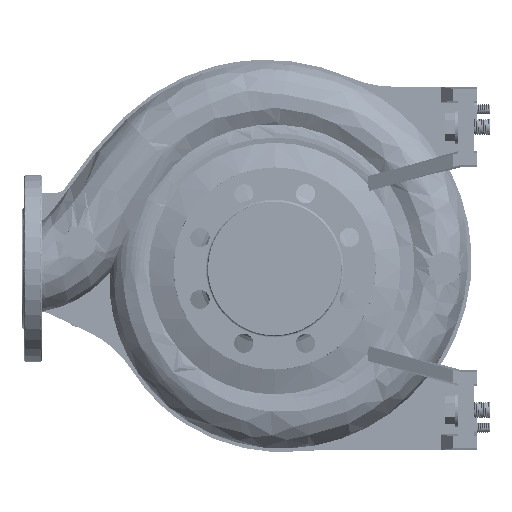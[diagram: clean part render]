
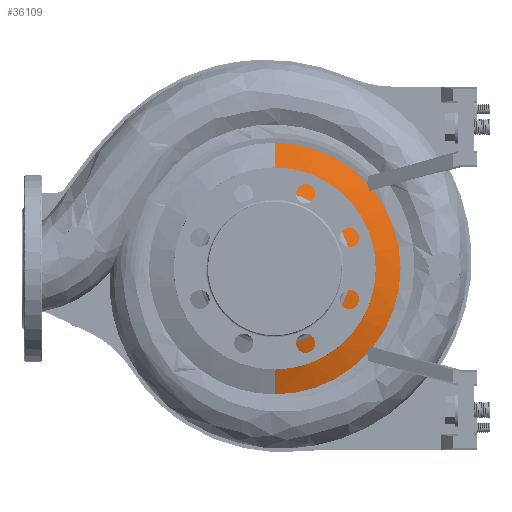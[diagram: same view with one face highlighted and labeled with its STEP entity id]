
A CAD part, left-side view. The second image highlights one B-rep face of the part: STEP entity #36109.
In plain terms, the highlighted conical face has half-angle 70 degrees and reference radius 75.813 mm.
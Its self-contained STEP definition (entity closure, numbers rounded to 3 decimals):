
#1136 = ORIENTED_EDGE ( 'NONE', *, *, #2793, .F. ) ;
#1147 = AXIS2_PLACEMENT_3D ( 'NONE', #101738, #159464, #145041 ) ;
#2793 = EDGE_CURVE ( 'NONE', #102233, #60313, #119506, .T. ) ;
#3297 = AXIS2_PLACEMENT_3D ( 'NONE', #76582, #100985, #130766 ) ;
#4198 = AXIS2_PLACEMENT_3D ( 'NONE', #114776, #19951, #87677 ) ;
#4266 = ORIENTED_EDGE ( 'NONE', *, *, #170350, .F. ) ;
#6507 = VERTEX_POINT ( 'NONE', #75205 ) ;
#7668 = VERTEX_POINT ( 'NONE', #13047 ) ;
#8170 = ORIENTED_EDGE ( 'NONE', *, *, #35137, .F. ) ;
#9872 = CARTESIAN_POINT ( 'NONE',  ( -32.018, -92.893, -79.411 ) ) ;
#12414 = DIRECTION ( 'NONE',  ( 0., 0., -1. ) ) ;
#13047 = CARTESIAN_POINT ( 'NONE',  ( -32.414, -93.579, -76.86 ) ) ;
#15435 = CARTESIAN_POINT ( 'NONE',  ( -32.009, -94.767, -77.168 ) ) ;
#19951 = DIRECTION ( 'NONE',  ( 1., 0., 0. ) ) ;
#24870 = CIRCLE ( 'NONE', #154616, 124.492 ) ;
#26311 = DIRECTION ( 'NONE',  ( -1., 0., 0. ) ) ;
#27428 = VECTOR ( 'NONE', #94171, 1000. ) ;
#28474 = ORIENTED_EDGE ( 'NONE', *, *, #159296, .F. ) ;
#28555 = CARTESIAN_POINT ( 'NONE',  ( -31.179, -91.439, 84.482 ) ) ;
#35137 = EDGE_CURVE ( 'NONE', #65257, #102233, #73276, .T. ) ;
#36109 = ADVANCED_FACE ( 'NONE', ( #145438 ), #148406, .T. ) ;
#38682 = CIRCLE ( 'NONE', #1147, 124.492 ) ;
#40962 = CARTESIAN_POINT ( 'NONE',  ( -32.414, -93.579, 76.86 ) ) ;
#41442 = CARTESIAN_POINT ( 'NONE',  ( -31.606, -92.179, 81.951 ) ) ;
#42718 = B_SPLINE_CURVE_WITH_KNOTS ( 'NONE', 3,
 ( #163305, #9872, #64948, #79370 ),
 .UNSPECIFIED., .F., .F.,
 ( 4, 4 ),
 ( 0., 0.008 ),
 .UNSPECIFIED. ) ;
#44260 = ORIENTED_EDGE ( 'NONE', *, *, #93498, .F. ) ;
#45179 = EDGE_CURVE ( 'NONE', #145474, #121984, #129296, .T. ) ;
#45580 = DIRECTION ( 'NONE',  ( 0.342, 0., -0.94 ) ) ;
#52205 = EDGE_LOOP ( 'NONE', ( #1136, #8170, #172983, #128111, #105216, #44260, #28474, #82037, #4266, #106501 ) ) ;
#54531 = CARTESIAN_POINT ( 'NONE',  ( -32.009, -94.767, 77.168 ) ) ;
#57670 = B_SPLINE_CURVE_WITH_KNOTS ( 'NONE', 3,
 ( #150875, #139122, #15435, #111156 ),
 .UNSPECIFIED., .F., .F.,
 ( 4, 4 ),
 ( 0., 1. ),
 .UNSPECIFIED. ) ;
#58960 = CARTESIAN_POINT ( 'NONE',  ( -31.179, -97.191, 77.796 ) ) ;
#60313 = VERTEX_POINT ( 'NONE', #101507 ) ;
#61466 = EDGE_CURVE ( 'NONE', #65257, #6507, #113298, .T. ) ;
#63691 = EDGE_CURVE ( 'NONE', #81980, #6507, #138762, .T. ) ;
#64948 = CARTESIAN_POINT ( 'NONE',  ( -31.606, -92.179, -81.951 ) ) ;
#65257 = VERTEX_POINT ( 'NONE', #144677 ) ;
#66813 = VERTEX_POINT ( 'NONE', #28555 ) ;
#67491 = CARTESIAN_POINT ( 'NONE',  ( -31.179, 0., 0. ) ) ;
#73276 = CIRCLE ( 'NONE', #151481, 75.813 ) ;
#73331 = EDGE_CURVE ( 'NONE', #7668, #81980, #42718, .T. ) ;
#75205 = CARTESIAN_POINT ( 'NONE',  ( -31.179, 0., -124.492 ) ) ;
#76582 = CARTESIAN_POINT ( 'NONE',  ( -31.179, 0., 0. ) ) ;
#79370 = CARTESIAN_POINT ( 'NONE',  ( -31.179, -91.439, -84.482 ) ) ;
#81980 = VERTEX_POINT ( 'NONE', #151962 ) ;
#82037 = ORIENTED_EDGE ( 'NONE', *, *, #45179, .F. ) ;
#86050 = CARTESIAN_POINT ( 'NONE',  ( -31.179, -97.191, 77.796 ) ) ;
#86322 = CARTESIAN_POINT ( 'NONE',  ( -31.179, -91.439, 84.482 ) ) ;
#87677 = DIRECTION ( 'NONE',  ( 0., 0., -1. ) ) ;
#90704 = VERTEX_POINT ( 'NONE', #177629 ) ;
#93498 = EDGE_CURVE ( 'NONE', #90704, #7668, #57670, .T. ) ;
#94171 = DIRECTION ( 'NONE',  ( 0.342, 0., 0.94 ) ) ;
#100985 = DIRECTION ( 'NONE',  ( 1., 0., 0. ) ) ;
#101507 = CARTESIAN_POINT ( 'NONE',  ( -31.179, 0., 124.492 ) ) ;
#101738 = CARTESIAN_POINT ( 'NONE',  ( -31.179, 0., 0. ) ) ;
#102233 = VERTEX_POINT ( 'NONE', #158434 ) ;
#105216 = ORIENTED_EDGE ( 'NONE', *, *, #73331, .F. ) ;
#106501 = ORIENTED_EDGE ( 'NONE', *, *, #153650, .F. ) ;
#110056 = CARTESIAN_POINT ( 'NONE',  ( -32.414, -93.579, 76.86 ) ) ;
#111156 = CARTESIAN_POINT ( 'NONE',  ( -32.414, -93.579, -76.86 ) ) ;
#113298 = LINE ( 'NONE', #169276, #167116 ) ;
#114776 = CARTESIAN_POINT ( 'NONE',  ( -48.896, 0., 0. ) ) ;
#119506 = LINE ( 'NONE', #146591, #27428 ) ;
#120762 = B_SPLINE_CURVE_WITH_KNOTS ( 'NONE', 3,
 ( #86322, #41442, #123611, #110056 ),
 .UNSPECIFIED., .F., .F.,
 ( 4, 4 ),
 ( 0., 0.008 ),
 .UNSPECIFIED. ) ;
#121984 = VERTEX_POINT ( 'NONE', #58960 ) ;
#123611 = CARTESIAN_POINT ( 'NONE',  ( -32.018, -92.893, 79.411 ) ) ;
#125812 = CARTESIAN_POINT ( 'NONE',  ( -31.597, -95.971, 77.479 ) ) ;
#128111 = ORIENTED_EDGE ( 'NONE', *, *, #63691, .F. ) ;
#129296 = B_SPLINE_CURVE_WITH_KNOTS ( 'NONE', 3,
 ( #40962, #54531, #125812, #86050 ),
 .UNSPECIFIED., .F., .F.,
 ( 4, 4 ),
 ( 0., 1. ),
 .UNSPECIFIED. ) ;
#130766 = DIRECTION ( 'NONE',  ( 0., 0., -1. ) ) ;
#138762 = CIRCLE ( 'NONE', #3297, 124.492 ) ;
#139122 = CARTESIAN_POINT ( 'NONE',  ( -31.597, -95.971, -77.479 ) ) ;
#144677 = CARTESIAN_POINT ( 'NONE',  ( -48.896, 0., -75.813 ) ) ;
#145041 = DIRECTION ( 'NONE',  ( 0., 1., 0. ) ) ;
#145438 = FACE_OUTER_BOUND ( 'NONE', #52205, .T. ) ;
#145474 = VERTEX_POINT ( 'NONE', #157209 ) ;
#146591 = CARTESIAN_POINT ( 'NONE',  ( -48.896, 0., 75.813 ) ) ;
#148406 = CONICAL_SURFACE ( 'NONE', #4198, 75.813, 1.222 ) ;
#150007 = CARTESIAN_POINT ( 'NONE',  ( -48.896, 0., 0. ) ) ;
#150875 = CARTESIAN_POINT ( 'NONE',  ( -31.179, -97.191, -77.796 ) ) ;
#151481 = AXIS2_PLACEMENT_3D ( 'NONE', #150007, #26311, #162693 ) ;
#151962 = CARTESIAN_POINT ( 'NONE',  ( -31.179, -91.439, -84.482 ) ) ;
#153650 = EDGE_CURVE ( 'NONE', #60313, #66813, #24870, .T. ) ;
#154616 = AXIS2_PLACEMENT_3D ( 'NONE', #67491, #176770, #12414 ) ;
#157209 = CARTESIAN_POINT ( 'NONE',  ( -32.414, -93.579, 76.86 ) ) ;
#158434 = CARTESIAN_POINT ( 'NONE',  ( -48.896, 0., 75.813 ) ) ;
#159296 = EDGE_CURVE ( 'NONE', #121984, #90704, #38682, .T. ) ;
#159464 = DIRECTION ( 'NONE',  ( 1., 0., 0. ) ) ;
#162693 = DIRECTION ( 'NONE',  ( 0., 0., -1. ) ) ;
#163305 = CARTESIAN_POINT ( 'NONE',  ( -32.414, -93.579, -76.86 ) ) ;
#167116 = VECTOR ( 'NONE', #45580, 1000. ) ;
#169276 = CARTESIAN_POINT ( 'NONE',  ( -48.896, 0., -75.813 ) ) ;
#170350 = EDGE_CURVE ( 'NONE', #66813, #145474, #120762, .T. ) ;
#172983 = ORIENTED_EDGE ( 'NONE', *, *, #61466, .T. ) ;
#176770 = DIRECTION ( 'NONE',  ( 1., 0., 0. ) ) ;
#177629 = CARTESIAN_POINT ( 'NONE',  ( -31.179, -97.191, -77.796 ) ) ;
